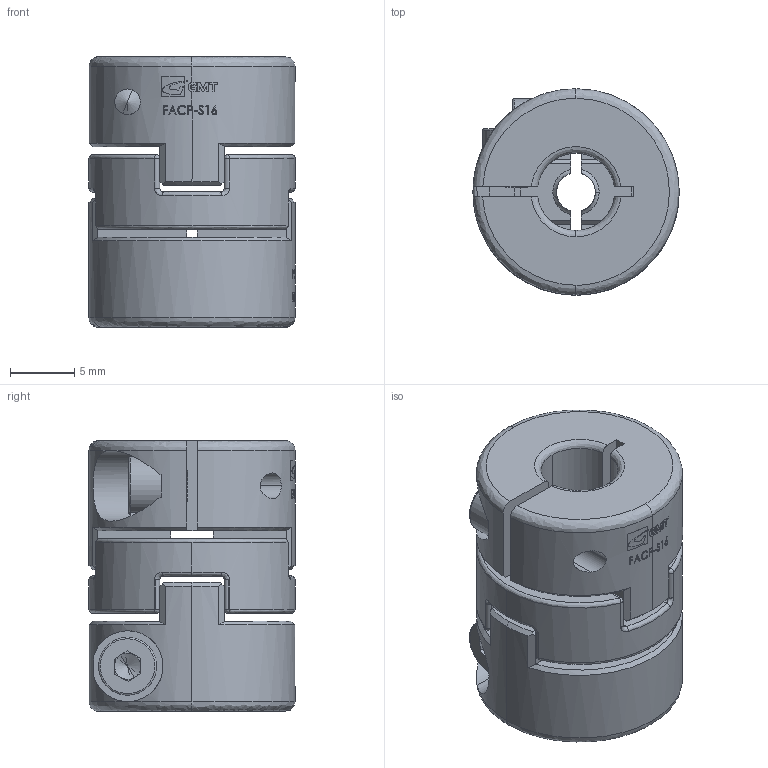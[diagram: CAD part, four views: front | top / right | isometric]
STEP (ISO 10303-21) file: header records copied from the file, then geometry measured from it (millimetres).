
FILE_DESCRIPTION (( 'STEP AP203' ), '1' );
FILE_NAME ('FACP-S16.STEP', '2008-04-07T02:38:06', ( '陳志豪' ), ( '高明鐵企業股份有限公司' ), 'SwSTEP 2.0', 'SolidWorks 2007', '' );
FILE_SCHEMA (( 'CONFIG_CONTROL_DESIGN' ));
Length unit declared in the file: millimetre
Products named in the file (1): FACP-S16
Bounding box: 16 x 16 x 21 mm (x, y, z)
Surface area: 2826.2 mm2 (no closed solid volume)
Topology: 0 solids, 8 shells, 366 faces, 1481 edges, 1044 vertices
Faces by surface type: plane 146, bspline 113, cylinder 90, cone 17
Entity records: 21030 total; most frequent: CARTESIAN_POINT 10446, ORIENTED_EDGE 2237, DIRECTION 1697, EDGE_CURVE 1465, VERTEX_POINT 1042, VECTOR 573, LINE 573, AXIS2_PLACEMENT_3D 562
